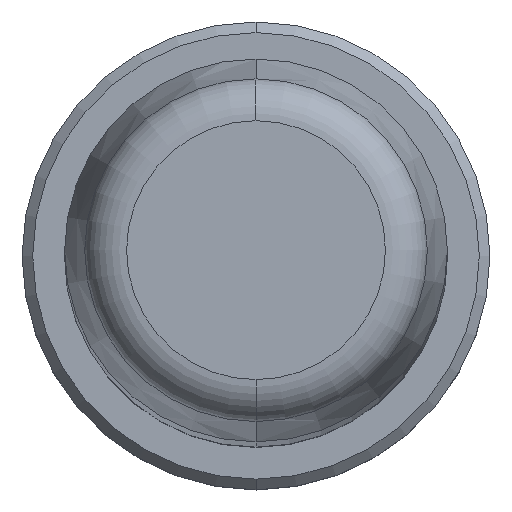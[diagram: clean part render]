
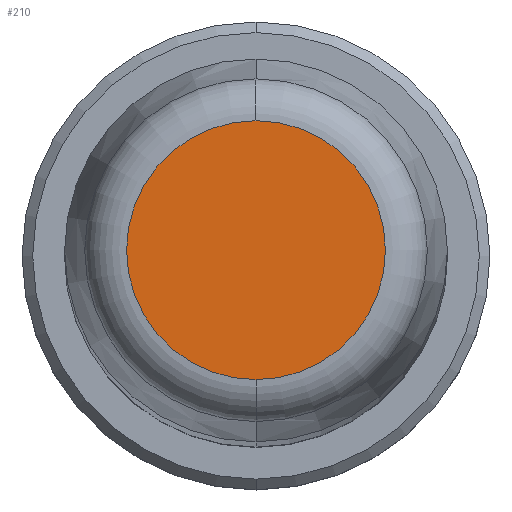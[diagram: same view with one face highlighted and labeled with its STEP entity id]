
A CAD part, top view. The second image highlights one B-rep face of the part: STEP entity #210.
In plain terms, the highlighted planar face has unit normal (0, 0, 1).
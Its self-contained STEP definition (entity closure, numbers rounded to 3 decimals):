
#1=CARTESIAN_POINT('',(0.,0.,160.));
#2=DIRECTION('',(0.,0.,-1.));
#3=DIRECTION('',(0.,-1.,0.));
#4=AXIS2_PLACEMENT_3D('',#1,#2,#3);
#6=CARTESIAN_POINT('',(0.,0.,160.));
#7=DIRECTION('',(0.,0.,-1.));
#8=DIRECTION('',(0.,1.,0.));
#9=AXIS2_PLACEMENT_3D('',#6,#7,#8);
#183=CARTESIAN_POINT('',(0.,-6.088,160.));
#184=CARTESIAN_POINT('',(0.,6.088,160.));
#185=VERTEX_POINT('',#183);
#186=VERTEX_POINT('',#184);
#199=CARTESIAN_POINT('',(0.,0.,160.));
#200=DIRECTION('',(0.,0.,1.));
#201=DIRECTION('',(0.,-1.,0.));
#202=AXIS2_PLACEMENT_3D('',#199,#200,#201);
#203=PLANE('',#202);
#205=ORIENTED_EDGE('',*,*,#204,.T.);
#207=ORIENTED_EDGE('',*,*,#206,.T.);
#208=EDGE_LOOP('',(#205,#207));
#209=FACE_OUTER_BOUND('',#208,.F.);
#210=ADVANCED_FACE('',(#209),#203,.T.);
#5=CIRCLE('',#4,6.088);
#10=CIRCLE('',#9,6.088);
#204=EDGE_CURVE('',#185,#186,#5,.T.);
#206=EDGE_CURVE('',#186,#185,#10,.T.);
